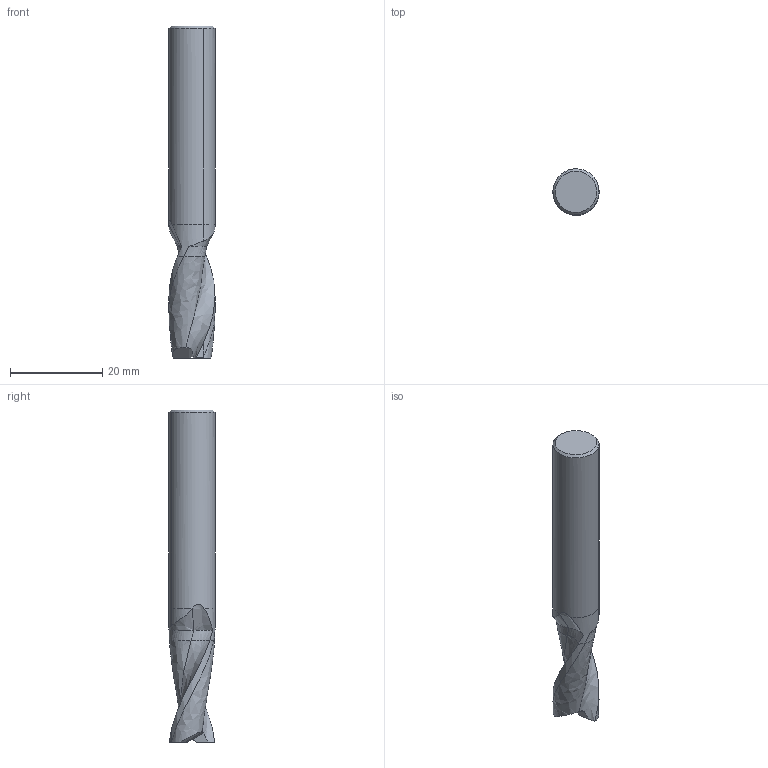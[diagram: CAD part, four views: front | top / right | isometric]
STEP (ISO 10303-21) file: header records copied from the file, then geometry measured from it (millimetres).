
FILE_DESCRIPTION(('CATIA V5 STEP','CAx-IF Rec.Pracs.--- Model Styling and Organization---1.2---2011-12-15'),'2;1');
FILE_NAME('N:\data\isr\design\special1\users\ALLA_K\MILLING\SOLID CARBIDE\SOLIDMILL\EC-A2 10-22C10E72\EC-A2 10-22C10E72_D_MM.stp','2020-01-14T08:19:29+00:00',('none'),('none'),'CATIA Version 5 Release 21 SP 5 (IN-10)','CATIA V5 STEP AP214','none');
FILE_SCHEMA(('AUTOMOTIVE_DESIGN { 1 0 10303 214 1 1 1 1 }'));
Length unit declared in the file: millimetre
Products named in the file (1): EC-A2 10-22C10E72
Bounding box: 10 x 10 x 72 mm (x, y, z)
Volume: 4770.6 mm3; surface area: 2380 mm2
Topology: 2 solids, 2 shells, 41 faces, 107 edges, 71 vertices
Faces by surface type: bspline 14, plane 11, cylinder 10, torus 4, cone 2
Entity records: 1871 total; most frequent: CARTESIAN_POINT 1059, ORIENTED_EDGE 208, EDGE_CURVE 104, DIRECTION 81, VERTEX_POINT 67, B_SPLINE_CURVE_WITH_KNOTS 47, ADVANCED_FACE 41, EDGE_LOOP 41
